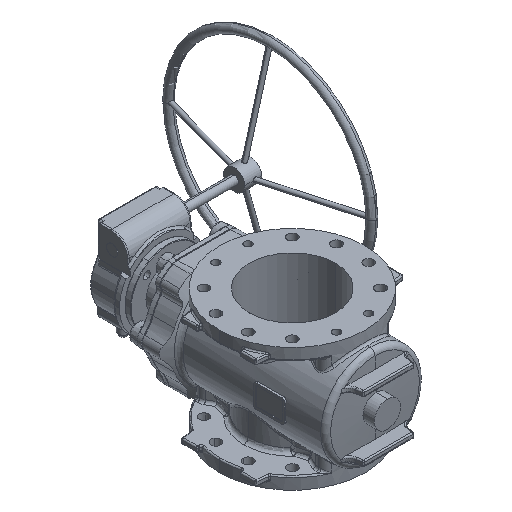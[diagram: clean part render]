
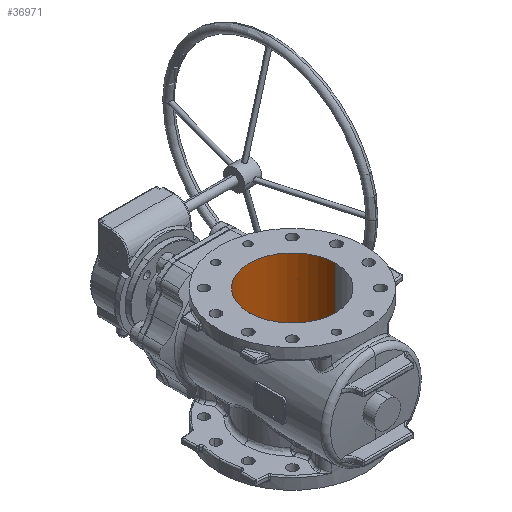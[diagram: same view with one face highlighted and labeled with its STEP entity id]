
A CAD part, isometric view. The second image highlights one B-rep face of the part: STEP entity #36971.
In plain terms, the highlighted cylindrical face has radius 101.6 mm (diameter 203.2 mm), a partial arc.
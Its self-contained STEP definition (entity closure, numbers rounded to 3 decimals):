
#198 = ORIENTED_EDGE ( 'NONE', *, *, #20466, .T. ) ;
#1114 = CARTESIAN_POINT ( 'NONE',  ( 0., 0., -146. ) ) ;
#1115 = ORIENTED_EDGE ( 'NONE', *, *, #19243, .F. ) ;
#1357 = DIRECTION ( 'NONE',  ( -1., 0., 0. ) ) ;
#2275 = CARTESIAN_POINT ( 'NONE',  ( 0., 0., -433.368 ) ) ;
#2493 = CARTESIAN_POINT ( 'NONE',  ( -101.6, 0., -433.368 ) ) ;
#5758 = DIRECTION ( 'NONE',  ( 1., 0., 0. ) ) ;
#7071 = EDGE_CURVE ( 'NONE', #22919, #46838, #32120, .T. ) ;
#8834 = VECTOR ( 'NONE', #17653, 1000. ) ;
#8985 = AXIS2_PLACEMENT_3D ( 'NONE', #1114, #44923, #1357 ) ;
#9258 = FACE_OUTER_BOUND ( 'NONE', #15440, .T. ) ;
#13480 = ORIENTED_EDGE ( 'NONE', *, *, #7071, .F. ) ;
#13709 = CARTESIAN_POINT ( 'NONE',  ( 101.6, 0., -433.368 ) ) ;
#14361 = CIRCLE ( 'NONE', #8985, 101.6 ) ;
#14571 = AXIS2_PLACEMENT_3D ( 'NONE', #2275, #42710, #42479 ) ;
#15440 = EDGE_LOOP ( 'NONE', ( #13480, #1115, #33645, #198 ) ) ;
#17580 = DIRECTION ( 'NONE',  ( 0., 0., 1. ) ) ;
#17595 = CARTESIAN_POINT ( 'NONE',  ( 101.6, 0., 146. ) ) ;
#17653 = DIRECTION ( 'NONE',  ( 0., 0., 1. ) ) ;
#18381 = CARTESIAN_POINT ( 'NONE',  ( -101.6, 0., -146. ) ) ;
#19243 = EDGE_CURVE ( 'Defeatured_0_0+Defeatured_0_686+Defeatured_0_686+Defeatured_0_686', #34774, #22919, #14361, .T. ) ;
#20215 = VERTEX_POINT ( 'NONE', #17595 ) ;
#20466 = EDGE_CURVE ( 'Defeatured_0_686+Defeatured_0_1+Defeatured_0_1+Defeatured_0_1', #20215, #46838, #32990, .T. ) ;
#22919 = VERTEX_POINT ( 'NONE', #18381 ) ;
#24321 = DIRECTION ( 'NONE',  ( 0., 0., 1. ) ) ;
#29246 = CARTESIAN_POINT ( 'NONE',  ( 101.6, 0., -146. ) ) ;
#31424 = CYLINDRICAL_SURFACE ( 'NONE', #14571, 101.6 ) ;
#32120 = LINE ( 'NONE', #2493, #8834 ) ;
#32990 = CIRCLE ( 'NONE', #34542, 101.6 ) ;
#33645 = ORIENTED_EDGE ( 'NONE', *, *, #43952, .T. ) ;
#34542 = AXIS2_PLACEMENT_3D ( 'NONE', #35389, #24321, #5758 ) ;
#34774 = VERTEX_POINT ( 'NONE', #29246 ) ;
#35389 = CARTESIAN_POINT ( 'NONE',  ( 0., 0., 146. ) ) ;
#36126 = LINE ( 'NONE', #13709, #37896 ) ;
#36971 = ADVANCED_FACE ( 'Defeatured_0_686', ( #9258 ), #31424, .F. ) ;
#37896 = VECTOR ( 'NONE', #17580, 1000. ) ;
#38308 = CARTESIAN_POINT ( 'NONE',  ( -101.6, 0., 146. ) ) ;
#42479 = DIRECTION ( 'NONE',  ( 1., 0., 0. ) ) ;
#42710 = DIRECTION ( 'NONE',  ( 0., 0., 1. ) ) ;
#43952 = EDGE_CURVE ( 'NONE', #34774, #20215, #36126, .T. ) ;
#44923 = DIRECTION ( 'NONE',  ( 0., 0., 1. ) ) ;
#46838 = VERTEX_POINT ( 'NONE', #38308 ) ;
